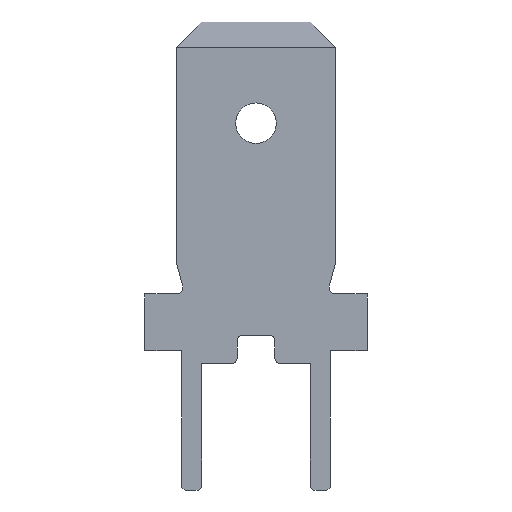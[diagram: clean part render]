
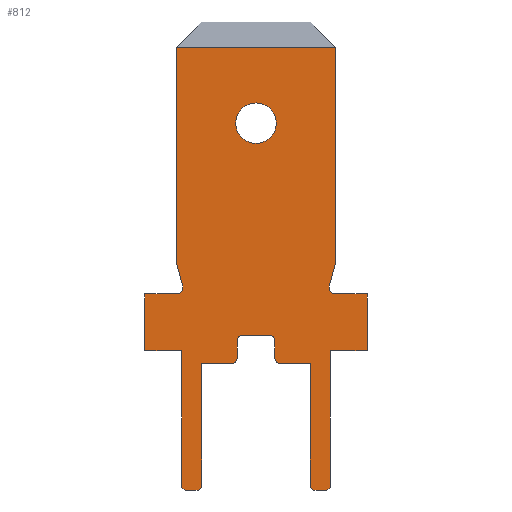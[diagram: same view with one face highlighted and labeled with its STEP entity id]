
A CAD part, front view. The second image highlights one B-rep face of the part: STEP entity #812.
In plain terms, the highlighted planar face has unit normal (0, -1, 0).
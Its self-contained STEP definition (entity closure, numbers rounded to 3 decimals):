
#135=CARTESIAN_POINT('',(0.,-0.4,-4.));
#136=DIRECTION('',(0.,-1.,0.));
#137=DIRECTION('',(1.,0.,0.));
#138=AXIS2_PLACEMENT_3D('',#135,#136,#137);
#140=CARTESIAN_POINT('',(0.,-0.4,-4.));
#141=DIRECTION('',(0.,-1.,0.));
#142=DIRECTION('',(-1.,0.,0.));
#143=AXIS2_PLACEMENT_3D('',#140,#141,#142);
#145=CARTESIAN_POINT('',(-0.95,-0.4,-13.3));
#146=DIRECTION('',(0.,-1.,0.));
#147=DIRECTION('',(0.,0.,-1.));
#148=AXIS2_PLACEMENT_3D('',#145,#146,#147);
#150=DIRECTION('',(-1.,0.,0.));
#151=VECTOR('',#150,1.19);
#152=CARTESIAN_POINT('',(-0.95,-0.4,-13.5));
#153=LINE('',#152,#151);
#154=DIRECTION('',(0.,0.,-1.));
#155=VECTOR('',#154,4.887);
#156=CARTESIAN_POINT('',(-2.14,-0.4,-13.5));
#157=LINE('',#156,#155);
#158=DIRECTION('',(-0.799,0.,-0.602));
#159=VECTOR('',#158,0.188);
#160=CARTESIAN_POINT('',(-2.14,-0.4,-18.387));
#161=LINE('',#160,#159);
#162=DIRECTION('',(-1.,0.,0.));
#163=VECTOR('',#162,0.5);
#164=CARTESIAN_POINT('',(-2.29,-0.4,-18.5));
#165=LINE('',#164,#163);
#166=DIRECTION('',(-0.799,0.,0.602));
#167=VECTOR('',#166,0.188);
#168=CARTESIAN_POINT('',(-2.79,-0.4,-18.5));
#169=LINE('',#168,#167);
#170=DIRECTION('',(0.,0.,1.));
#171=VECTOR('',#170,5.387);
#172=CARTESIAN_POINT('',(-2.94,-0.4,-18.387));
#173=LINE('',#172,#171);
#174=DIRECTION('',(-1.,0.,0.));
#175=VECTOR('',#174,1.46);
#176=CARTESIAN_POINT('',(-2.94,-0.4,-13.));
#177=LINE('',#176,#175);
#178=DIRECTION('',(0.,0.,1.));
#179=VECTOR('',#178,2.25);
#180=CARTESIAN_POINT('',(-4.4,-0.4,-13.));
#181=LINE('',#180,#179);
#182=DIRECTION('',(1.,0.,0.));
#183=VECTOR('',#182,1.259);
#184=CARTESIAN_POINT('',(-4.4,-0.4,-10.75));
#185=LINE('',#184,#183);
#186=CARTESIAN_POINT('',(-3.141,-0.4,-10.5));
#187=DIRECTION('',(0.,-1.,0.));
#188=DIRECTION('',(0.,0.,-1.));
#189=AXIS2_PLACEMENT_3D('',#186,#187,#188);
#191=DIRECTION('',(-0.259,0.,0.966));
#192=VECTOR('',#191,0.968);
#193=CARTESIAN_POINT('',(-2.899,-0.4,-10.435));
#194=LINE('',#193,#192);
#195=DIRECTION('',(0.,0.,1.));
#196=VECTOR('',#195,8.5);
#197=CARTESIAN_POINT('',(-3.15,-0.4,-9.5));
#198=LINE('',#197,#196);
#199=DIRECTION('',(-1.,0.,0.));
#200=VECTOR('',#199,6.3);
#201=CARTESIAN_POINT('',(3.15,-0.4,-1.));
#202=LINE('',#201,#200);
#203=DIRECTION('',(0.,0.,-1.));
#204=VECTOR('',#203,8.5);
#205=CARTESIAN_POINT('',(3.15,-0.4,-1.));
#206=LINE('',#205,#204);
#207=DIRECTION('',(-0.259,0.,-0.966));
#208=VECTOR('',#207,0.968);
#209=CARTESIAN_POINT('',(3.15,-0.4,-9.5));
#210=LINE('',#209,#208);
#211=CARTESIAN_POINT('',(3.141,-0.4,-10.5));
#212=DIRECTION('',(0.,-1.,0.));
#213=DIRECTION('',(-0.966,0.,0.259));
#214=AXIS2_PLACEMENT_3D('',#211,#212,#213);
#216=DIRECTION('',(1.,0.,0.));
#217=VECTOR('',#216,1.259);
#218=CARTESIAN_POINT('',(3.141,-0.4,-10.75));
#219=LINE('',#218,#217);
#220=DIRECTION('',(0.,0.,-1.));
#221=VECTOR('',#220,2.25);
#222=CARTESIAN_POINT('',(4.4,-0.4,-10.75));
#223=LINE('',#222,#221);
#224=DIRECTION('',(-1.,0.,0.));
#225=VECTOR('',#224,1.46);
#226=CARTESIAN_POINT('',(4.4,-0.4,-13.));
#227=LINE('',#226,#225);
#228=DIRECTION('',(0.,0.,-1.));
#229=VECTOR('',#228,5.387);
#230=CARTESIAN_POINT('',(2.94,-0.4,-13.));
#231=LINE('',#230,#229);
#232=DIRECTION('',(-0.799,0.,-0.602));
#233=VECTOR('',#232,0.188);
#234=CARTESIAN_POINT('',(2.94,-0.4,-18.387));
#235=LINE('',#234,#233);
#236=DIRECTION('',(-1.,0.,0.));
#237=VECTOR('',#236,0.5);
#238=CARTESIAN_POINT('',(2.79,-0.4,-18.5));
#239=LINE('',#238,#237);
#240=DIRECTION('',(-0.799,0.,0.602));
#241=VECTOR('',#240,0.188);
#242=CARTESIAN_POINT('',(2.29,-0.4,-18.5));
#243=LINE('',#242,#241);
#244=DIRECTION('',(0.,0.,1.));
#245=VECTOR('',#244,4.887);
#246=CARTESIAN_POINT('',(2.14,-0.4,-18.387));
#247=LINE('',#246,#245);
#248=DIRECTION('',(-1.,0.,0.));
#249=VECTOR('',#248,1.19);
#250=CARTESIAN_POINT('',(2.14,-0.4,-13.5));
#251=LINE('',#250,#249);
#252=CARTESIAN_POINT('',(0.95,-0.4,-13.3));
#253=DIRECTION('',(0.,-1.,0.));
#254=DIRECTION('',(-1.,0.,0.));
#255=AXIS2_PLACEMENT_3D('',#252,#253,#254);
#257=DIRECTION('',(0.,0.,1.));
#258=VECTOR('',#257,0.7);
#259=CARTESIAN_POINT('',(0.75,-0.4,-13.3));
#260=LINE('',#259,#258);
#261=DIRECTION('',(-1.,0.,0.));
#262=VECTOR('',#261,1.1);
#263=CARTESIAN_POINT('',(0.55,-0.4,-12.4));
#264=LINE('',#263,#262);
#265=DIRECTION('',(0.,0.,-1.));
#266=VECTOR('',#265,0.7);
#267=CARTESIAN_POINT('',(-0.75,-0.4,-12.6));
#268=LINE('',#267,#266);
#419=CARTESIAN_POINT('',(-0.55,-0.4,-12.6));
#420=DIRECTION('',(0.,1.,0.));
#421=DIRECTION('',(-1.,0.,0.));
#422=AXIS2_PLACEMENT_3D('',#419,#420,#421);
#437=CARTESIAN_POINT('',(0.55,-0.4,-12.6));
#438=DIRECTION('',(0.,1.,0.));
#439=DIRECTION('',(0.,0.,1.));
#440=AXIS2_PLACEMENT_3D('',#437,#438,#439);
#591=CARTESIAN_POINT('',(3.15,-0.4,-9.5));
#592=CARTESIAN_POINT('',(2.899,-0.4,-10.435));
#593=VERTEX_POINT('',#591);
#594=VERTEX_POINT('',#592);
#595=CARTESIAN_POINT('',(3.141,-0.4,-10.75));
#596=VERTEX_POINT('',#595);
#597=CARTESIAN_POINT('',(4.4,-0.4,-10.75));
#598=VERTEX_POINT('',#597);
#599=CARTESIAN_POINT('',(4.4,-0.4,-13.));
#600=VERTEX_POINT('',#599);
#601=CARTESIAN_POINT('',(2.94,-0.4,-13.));
#602=VERTEX_POINT('',#601);
#603=CARTESIAN_POINT('',(2.94,-0.4,-18.387));
#604=VERTEX_POINT('',#603);
#605=CARTESIAN_POINT('',(2.79,-0.4,-18.5));
#606=VERTEX_POINT('',#605);
#607=CARTESIAN_POINT('',(2.29,-0.4,-18.5));
#608=VERTEX_POINT('',#607);
#609=CARTESIAN_POINT('',(2.14,-0.4,-18.387));
#610=VERTEX_POINT('',#609);
#611=CARTESIAN_POINT('',(2.14,-0.4,-13.5));
#612=VERTEX_POINT('',#611);
#613=CARTESIAN_POINT('',(-2.14,-0.4,-13.5));
#614=CARTESIAN_POINT('',(-2.14,-0.4,-18.387));
#615=VERTEX_POINT('',#613);
#616=VERTEX_POINT('',#614);
#617=CARTESIAN_POINT('',(-2.29,-0.4,-18.5));
#618=VERTEX_POINT('',#617);
#619=CARTESIAN_POINT('',(-2.79,-0.4,-18.5));
#620=VERTEX_POINT('',#619);
#621=CARTESIAN_POINT('',(-2.94,-0.4,-18.387));
#622=VERTEX_POINT('',#621);
#623=CARTESIAN_POINT('',(-2.94,-0.4,-13.));
#624=VERTEX_POINT('',#623);
#625=CARTESIAN_POINT('',(-4.4,-0.4,-13.));
#626=VERTEX_POINT('',#625);
#627=CARTESIAN_POINT('',(-4.4,-0.4,-10.75));
#628=VERTEX_POINT('',#627);
#629=CARTESIAN_POINT('',(-3.141,-0.4,-10.75));
#630=VERTEX_POINT('',#629);
#631=CARTESIAN_POINT('',(-2.899,-0.4,-10.435));
#632=VERTEX_POINT('',#631);
#633=CARTESIAN_POINT('',(-3.15,-0.4,-9.5));
#634=VERTEX_POINT('',#633);
#679=CARTESIAN_POINT('',(0.8,-0.4,-4.));
#680=CARTESIAN_POINT('',(-0.8,-0.4,-4.));
#681=VERTEX_POINT('',#679);
#682=VERTEX_POINT('',#680);
#695=CARTESIAN_POINT('',(-3.15,-0.4,-1.));
#697=VERTEX_POINT('',#695);
#701=CARTESIAN_POINT('',(3.15,-0.4,-1.));
#702=VERTEX_POINT('',#701);
#703=CARTESIAN_POINT('',(-0.75,-0.4,-12.6));
#705=VERTEX_POINT('',#703);
#707=CARTESIAN_POINT('',(-0.55,-0.4,-12.4));
#709=VERTEX_POINT('',#707);
#711=CARTESIAN_POINT('',(0.55,-0.4,-12.4));
#713=VERTEX_POINT('',#711);
#715=CARTESIAN_POINT('',(0.75,-0.4,-12.6));
#717=VERTEX_POINT('',#715);
#719=CARTESIAN_POINT('',(-0.95,-0.4,-13.5));
#720=CARTESIAN_POINT('',(-0.75,-0.4,-13.3));
#721=VERTEX_POINT('',#719);
#722=VERTEX_POINT('',#720);
#727=CARTESIAN_POINT('',(0.75,-0.4,-13.3));
#728=CARTESIAN_POINT('',(0.95,-0.4,-13.5));
#729=VERTEX_POINT('',#727);
#730=VERTEX_POINT('',#728);
#735=CARTESIAN_POINT('',(0.,-0.4,0.));
#736=DIRECTION('',(0.,1.,0.));
#737=DIRECTION('',(1.,0.,0.));
#738=AXIS2_PLACEMENT_3D('',#735,#736,#737);
#739=PLANE('',#738);
#741=ORIENTED_EDGE('',*,*,#740,.F.);
#743=ORIENTED_EDGE('',*,*,#742,.T.);
#745=ORIENTED_EDGE('',*,*,#744,.T.);
#747=ORIENTED_EDGE('',*,*,#746,.T.);
#749=ORIENTED_EDGE('',*,*,#748,.T.);
#751=ORIENTED_EDGE('',*,*,#750,.T.);
#753=ORIENTED_EDGE('',*,*,#752,.T.);
#755=ORIENTED_EDGE('',*,*,#754,.T.);
#757=ORIENTED_EDGE('',*,*,#756,.T.);
#759=ORIENTED_EDGE('',*,*,#758,.T.);
#761=ORIENTED_EDGE('',*,*,#760,.T.);
#763=ORIENTED_EDGE('',*,*,#762,.T.);
#765=ORIENTED_EDGE('',*,*,#764,.T.);
#767=ORIENTED_EDGE('',*,*,#766,.F.);
#769=ORIENTED_EDGE('',*,*,#768,.T.);
#771=ORIENTED_EDGE('',*,*,#770,.T.);
#773=ORIENTED_EDGE('',*,*,#772,.T.);
#775=ORIENTED_EDGE('',*,*,#774,.T.);
#777=ORIENTED_EDGE('',*,*,#776,.T.);
#779=ORIENTED_EDGE('',*,*,#778,.T.);
#781=ORIENTED_EDGE('',*,*,#780,.T.);
#783=ORIENTED_EDGE('',*,*,#782,.T.);
#785=ORIENTED_EDGE('',*,*,#784,.T.);
#787=ORIENTED_EDGE('',*,*,#786,.T.);
#789=ORIENTED_EDGE('',*,*,#788,.T.);
#791=ORIENTED_EDGE('',*,*,#790,.T.);
#793=ORIENTED_EDGE('',*,*,#792,.F.);
#795=ORIENTED_EDGE('',*,*,#794,.T.);
#797=ORIENTED_EDGE('',*,*,#796,.F.);
#799=ORIENTED_EDGE('',*,*,#798,.T.);
#801=ORIENTED_EDGE('',*,*,#800,.F.);
#803=ORIENTED_EDGE('',*,*,#802,.T.);
#804=EDGE_LOOP('',(#741,#743,#745,#747,#749,#751,#753,#755,#757,#759,#761,#763,
#765,#767,#769,#771,#773,#775,#777,#779,#781,#783,#785,#787,#789,#791,#793,#795,
#797,#799,#801,#803));
#805=FACE_OUTER_BOUND('',#804,.F.);
#807=ORIENTED_EDGE('',*,*,#806,.T.);
#809=ORIENTED_EDGE('',*,*,#808,.T.);
#810=EDGE_LOOP('',(#807,#809));
#811=FACE_BOUND('',#810,.F.);
#139=CIRCLE('',#138,0.8);
#144=CIRCLE('',#143,0.8);
#149=CIRCLE('',#148,0.2);
#190=CIRCLE('',#189,0.25);
#215=CIRCLE('',#214,0.25);
#256=CIRCLE('',#255,0.2);
#423=CIRCLE('',#422,0.2);
#441=CIRCLE('',#440,0.2);
#740=EDGE_CURVE('',#721,#722,#149,.T.);
#742=EDGE_CURVE('',#721,#615,#153,.T.);
#744=EDGE_CURVE('',#615,#616,#157,.T.);
#746=EDGE_CURVE('',#616,#618,#161,.T.);
#748=EDGE_CURVE('',#618,#620,#165,.T.);
#750=EDGE_CURVE('',#620,#622,#169,.T.);
#752=EDGE_CURVE('',#622,#624,#173,.T.);
#754=EDGE_CURVE('',#624,#626,#177,.T.);
#756=EDGE_CURVE('',#626,#628,#181,.T.);
#758=EDGE_CURVE('',#628,#630,#185,.T.);
#760=EDGE_CURVE('',#630,#632,#190,.T.);
#762=EDGE_CURVE('',#632,#634,#194,.T.);
#764=EDGE_CURVE('',#634,#697,#198,.T.);
#766=EDGE_CURVE('',#702,#697,#202,.T.);
#768=EDGE_CURVE('',#702,#593,#206,.T.);
#770=EDGE_CURVE('',#593,#594,#210,.T.);
#772=EDGE_CURVE('',#594,#596,#215,.T.);
#774=EDGE_CURVE('',#596,#598,#219,.T.);
#776=EDGE_CURVE('',#598,#600,#223,.T.);
#778=EDGE_CURVE('',#600,#602,#227,.T.);
#780=EDGE_CURVE('',#602,#604,#231,.T.);
#782=EDGE_CURVE('',#604,#606,#235,.T.);
#784=EDGE_CURVE('',#606,#608,#239,.T.);
#786=EDGE_CURVE('',#608,#610,#243,.T.);
#788=EDGE_CURVE('',#610,#612,#247,.T.);
#790=EDGE_CURVE('',#612,#730,#251,.T.);
#792=EDGE_CURVE('',#729,#730,#256,.T.);
#794=EDGE_CURVE('',#729,#717,#260,.T.);
#796=EDGE_CURVE('',#713,#717,#441,.T.);
#798=EDGE_CURVE('',#713,#709,#264,.T.);
#800=EDGE_CURVE('',#705,#709,#423,.T.);
#802=EDGE_CURVE('',#705,#722,#268,.T.);
#806=EDGE_CURVE('',#681,#682,#139,.T.);
#808=EDGE_CURVE('',#682,#681,#144,.T.);
#812=ADVANCED_FACE('',(#805,#811),#739,.F.);
